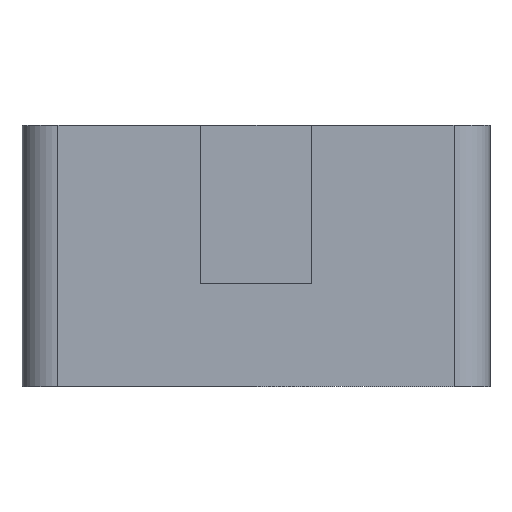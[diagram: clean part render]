
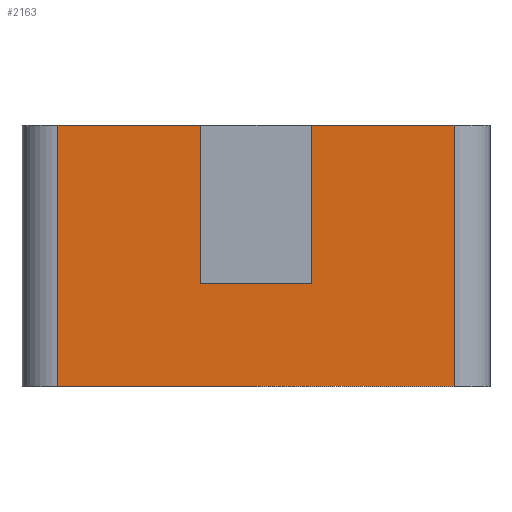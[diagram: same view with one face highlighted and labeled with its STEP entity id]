
A CAD part, left-side view. The second image highlights one B-rep face of the part: STEP entity #2163.
In plain terms, the highlighted planar face has unit normal (-1, 0, 0).
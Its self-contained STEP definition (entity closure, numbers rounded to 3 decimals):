
#44 = PLANE('',#45);
#45 = AXIS2_PLACEMENT_3D('',#46,#47,#48);
#46 = CARTESIAN_POINT('',(0.,0.,0.));
#47 = DIRECTION('',(0.,0.,1.));
#48 = DIRECTION('',(1.,0.,-0.));
#72 = CYLINDRICAL_SURFACE('',#73,4.);
#73 = AXIS2_PLACEMENT_3D('',#74,#75,#76);
#74 = CARTESIAN_POINT('',(-27.,-22.,0.));
#75 = DIRECTION('',(0.,0.,1.));
#76 = DIRECTION('',(0.,-1.,0.));
#100 = PLANE('',#101);
#101 = AXIS2_PLACEMENT_3D('',#102,#103,#104);
#102 = CARTESIAN_POINT('',(0.,0.,29.));
#103 = DIRECTION('',(0.,0.,1.));
#104 = DIRECTION('',(1.,0.,-0.));
#548 = VERTEX_POINT('',#549);
#549 = CARTESIAN_POINT('',(-31.,22.,0.));
#564 = CYLINDRICAL_SURFACE('',#565,4.);
#565 = AXIS2_PLACEMENT_3D('',#566,#567,#568);
#566 = CARTESIAN_POINT('',(-27.,22.,0.));
#567 = DIRECTION('',(0.,0.,1.));
#568 = DIRECTION('',(-0.,1.,0.));
#576 = EDGE_CURVE('',#548,#577,#579,.T.);
#577 = VERTEX_POINT('',#578);
#578 = CARTESIAN_POINT('',(-31.,-22.,0.));
#579 = SURFACE_CURVE('',#580,(#584,#591),.PCURVE_S1.);
#580 = LINE('',#581,#582);
#581 = CARTESIAN_POINT('',(-31.,26.,0.));
#582 = VECTOR('',#583,1.);
#583 = DIRECTION('',(0.,-1.,0.));
#584 = PCURVE('',#44,#585);
#585 = DEFINITIONAL_REPRESENTATION('',(#586),#590);
#586 = LINE('',#587,#588);
#587 = CARTESIAN_POINT('',(-31.,26.));
#588 = VECTOR('',#589,1.);
#589 = DIRECTION('',(0.,-1.));
#590 = ( GEOMETRIC_REPRESENTATION_CONTEXT(2) 
PARAMETRIC_REPRESENTATION_CONTEXT() REPRESENTATION_CONTEXT('2D SPACE',''
  ) );
#591 = PCURVE('',#592,#597);
#592 = PLANE('',#593);
#593 = AXIS2_PLACEMENT_3D('',#594,#595,#596);
#594 = CARTESIAN_POINT('',(-31.,26.,0.));
#595 = DIRECTION('',(1.,0.,-0.));
#596 = DIRECTION('',(0.,-1.,0.));
#597 = DEFINITIONAL_REPRESENTATION('',(#598),#602);
#598 = LINE('',#599,#600);
#599 = CARTESIAN_POINT('',(0.,0.));
#600 = VECTOR('',#601,1.);
#601 = DIRECTION('',(1.,0.));
#602 = ( GEOMETRIC_REPRESENTATION_CONTEXT(2) 
PARAMETRIC_REPRESENTATION_CONTEXT() REPRESENTATION_CONTEXT('2D SPACE',''
  ) );
#634 = EDGE_CURVE('',#577,#635,#637,.T.);
#635 = VERTEX_POINT('',#636);
#636 = CARTESIAN_POINT('',(-31.,-22.,29.));
#637 = SURFACE_CURVE('',#638,(#642,#649),.PCURVE_S1.);
#638 = LINE('',#639,#640);
#639 = CARTESIAN_POINT('',(-31.,-22.,0.));
#640 = VECTOR('',#641,1.);
#641 = DIRECTION('',(0.,0.,1.));
#642 = PCURVE('',#72,#643);
#643 = DEFINITIONAL_REPRESENTATION('',(#644),#648);
#644 = LINE('',#645,#646);
#645 = CARTESIAN_POINT('',(-1.571,0.));
#646 = VECTOR('',#647,1.);
#647 = DIRECTION('',(-0.,1.));
#648 = ( GEOMETRIC_REPRESENTATION_CONTEXT(2) 
PARAMETRIC_REPRESENTATION_CONTEXT() REPRESENTATION_CONTEXT('2D SPACE',''
  ) );
#649 = PCURVE('',#592,#650);
#650 = DEFINITIONAL_REPRESENTATION('',(#651),#655);
#651 = LINE('',#652,#653);
#652 = CARTESIAN_POINT('',(48.,0.));
#653 = VECTOR('',#654,1.);
#654 = DIRECTION('',(0.,-1.));
#655 = ( GEOMETRIC_REPRESENTATION_CONTEXT(2) 
PARAMETRIC_REPRESENTATION_CONTEXT() REPRESENTATION_CONTEXT('2D SPACE',''
  ) );
#811 = VERTEX_POINT('',#812);
#812 = CARTESIAN_POINT('',(-31.,22.,29.));
#834 = EDGE_CURVE('',#811,#835,#837,.T.);
#835 = VERTEX_POINT('',#836);
#836 = CARTESIAN_POINT('',(-31.,6.2,29.));
#837 = SURFACE_CURVE('',#838,(#842,#849),.PCURVE_S1.);
#838 = LINE('',#839,#840);
#839 = CARTESIAN_POINT('',(-31.,26.,29.));
#840 = VECTOR('',#841,1.);
#841 = DIRECTION('',(0.,-1.,0.));
#842 = PCURVE('',#100,#843);
#843 = DEFINITIONAL_REPRESENTATION('',(#844),#848);
#844 = LINE('',#845,#846);
#845 = CARTESIAN_POINT('',(-31.,26.));
#846 = VECTOR('',#847,1.);
#847 = DIRECTION('',(0.,-1.));
#848 = ( GEOMETRIC_REPRESENTATION_CONTEXT(2) 
PARAMETRIC_REPRESENTATION_CONTEXT() REPRESENTATION_CONTEXT('2D SPACE',''
  ) );
#849 = PCURVE('',#592,#850);
#850 = DEFINITIONAL_REPRESENTATION('',(#851),#855);
#851 = LINE('',#852,#853);
#852 = CARTESIAN_POINT('',(0.,-29.));
#853 = VECTOR('',#854,1.);
#854 = DIRECTION('',(1.,0.));
#855 = ( GEOMETRIC_REPRESENTATION_CONTEXT(2) 
PARAMETRIC_REPRESENTATION_CONTEXT() REPRESENTATION_CONTEXT('2D SPACE',''
  ) );
#873 = PLANE('',#874);
#874 = AXIS2_PLACEMENT_3D('',#875,#876,#877);
#875 = CARTESIAN_POINT('',(-34.,6.2,11.4));
#876 = DIRECTION('',(0.,1.,0.));
#877 = DIRECTION('',(0.,0.,1.));
#1239 = VERTEX_POINT('',#1240);
#1240 = CARTESIAN_POINT('',(-31.,-6.2,29.));
#1254 = PLANE('',#1255);
#1255 = AXIS2_PLACEMENT_3D('',#1256,#1257,#1258);
#1256 = CARTESIAN_POINT('',(-34.,-6.2,11.4));
#1257 = DIRECTION('',(0.,1.,0.));
#1258 = DIRECTION('',(0.,0.,1.));
#1265 = EDGE_CURVE('',#1239,#635,#1266,.T.);
#1266 = SURFACE_CURVE('',#1267,(#1271,#1278),.PCURVE_S1.);
#1267 = LINE('',#1268,#1269);
#1268 = CARTESIAN_POINT('',(-31.,26.,29.));
#1269 = VECTOR('',#1270,1.);
#1270 = DIRECTION('',(0.,-1.,0.));
#1271 = PCURVE('',#100,#1272);
#1272 = DEFINITIONAL_REPRESENTATION('',(#1273),#1277);
#1273 = LINE('',#1274,#1275);
#1274 = CARTESIAN_POINT('',(-31.,26.));
#1275 = VECTOR('',#1276,1.);
#1276 = DIRECTION('',(0.,-1.));
#1277 = ( GEOMETRIC_REPRESENTATION_CONTEXT(2) 
PARAMETRIC_REPRESENTATION_CONTEXT() REPRESENTATION_CONTEXT('2D SPACE',''
  ) );
#1278 = PCURVE('',#592,#1279);
#1279 = DEFINITIONAL_REPRESENTATION('',(#1280),#1284);
#1280 = LINE('',#1281,#1282);
#1281 = CARTESIAN_POINT('',(0.,-29.));
#1282 = VECTOR('',#1283,1.);
#1283 = DIRECTION('',(1.,0.));
#1284 = ( GEOMETRIC_REPRESENTATION_CONTEXT(2) 
PARAMETRIC_REPRESENTATION_CONTEXT() REPRESENTATION_CONTEXT('2D SPACE',''
  ) );
#2163 = ADVANCED_FACE('',(#2164),#592,.F.);
#2164 = FACE_BOUND('',#2165,.F.);
#2165 = EDGE_LOOP('',(#2166,#2167,#2188,#2189,#2210,#2236,#2255,#2256));
#2166 = ORIENTED_EDGE('',*,*,#576,.F.);
#2167 = ORIENTED_EDGE('',*,*,#2168,.T.);
#2168 = EDGE_CURVE('',#548,#811,#2169,.T.);
#2169 = SURFACE_CURVE('',#2170,(#2174,#2181),.PCURVE_S1.);
#2170 = LINE('',#2171,#2172);
#2171 = CARTESIAN_POINT('',(-31.,22.,0.));
#2172 = VECTOR('',#2173,1.);
#2173 = DIRECTION('',(0.,0.,1.));
#2174 = PCURVE('',#592,#2175);
#2175 = DEFINITIONAL_REPRESENTATION('',(#2176),#2180);
#2176 = LINE('',#2177,#2178);
#2177 = CARTESIAN_POINT('',(4.,0.));
#2178 = VECTOR('',#2179,1.);
#2179 = DIRECTION('',(0.,-1.));
#2180 = ( GEOMETRIC_REPRESENTATION_CONTEXT(2) 
PARAMETRIC_REPRESENTATION_CONTEXT() REPRESENTATION_CONTEXT('2D SPACE',''
  ) );
#2181 = PCURVE('',#564,#2182);
#2182 = DEFINITIONAL_REPRESENTATION('',(#2183),#2187);
#2183 = LINE('',#2184,#2185);
#2184 = CARTESIAN_POINT('',(1.571,0.));
#2185 = VECTOR('',#2186,1.);
#2186 = DIRECTION('',(0.,1.));
#2187 = ( GEOMETRIC_REPRESENTATION_CONTEXT(2) 
PARAMETRIC_REPRESENTATION_CONTEXT() REPRESENTATION_CONTEXT('2D SPACE',''
  ) );
#2188 = ORIENTED_EDGE('',*,*,#834,.T.);
#2189 = ORIENTED_EDGE('',*,*,#2190,.F.);
#2190 = EDGE_CURVE('',#2191,#835,#2193,.T.);
#2191 = VERTEX_POINT('',#2192);
#2192 = CARTESIAN_POINT('',(-31.,6.2,11.4));
#2193 = SURFACE_CURVE('',#2194,(#2198,#2204),.PCURVE_S1.);
#2194 = LINE('',#2195,#2196);
#2195 = CARTESIAN_POINT('',(-31.,6.2,5.7));
#2196 = VECTOR('',#2197,1.);
#2197 = DIRECTION('',(0.,-0.,1.));
#2198 = PCURVE('',#592,#2199);
#2199 = DEFINITIONAL_REPRESENTATION('',(#2200),#2203);
#2200 = B_SPLINE_CURVE_WITH_KNOTS('',1,(#2201,#2202),.UNSPECIFIED.,.F.,
  .F.,(2,2),(5.7,23.3),.PIECEWISE_BEZIER_KNOTS.);
#2201 = CARTESIAN_POINT('',(19.8,-11.4));
#2202 = CARTESIAN_POINT('',(19.8,-29.));
#2203 = ( GEOMETRIC_REPRESENTATION_CONTEXT(2) 
PARAMETRIC_REPRESENTATION_CONTEXT() REPRESENTATION_CONTEXT('2D SPACE',''
  ) );
#2204 = PCURVE('',#873,#2205);
#2205 = DEFINITIONAL_REPRESENTATION('',(#2206),#2209);
#2206 = B_SPLINE_CURVE_WITH_KNOTS('',1,(#2207,#2208),.UNSPECIFIED.,.F.,
  .F.,(2,2),(5.7,23.3),.PIECEWISE_BEZIER_KNOTS.);
#2207 = CARTESIAN_POINT('',(0.,3.));
#2208 = CARTESIAN_POINT('',(17.6,3.));
#2209 = ( GEOMETRIC_REPRESENTATION_CONTEXT(2) 
PARAMETRIC_REPRESENTATION_CONTEXT() REPRESENTATION_CONTEXT('2D SPACE',''
  ) );
#2210 = ORIENTED_EDGE('',*,*,#2211,.T.);
#2211 = EDGE_CURVE('',#2191,#2212,#2214,.T.);
#2212 = VERTEX_POINT('',#2213);
#2213 = CARTESIAN_POINT('',(-31.,-6.2,11.4));
#2214 = SURFACE_CURVE('',#2215,(#2219,#2225),.PCURVE_S1.);
#2215 = LINE('',#2216,#2217);
#2216 = CARTESIAN_POINT('',(-31.,9.9,11.4));
#2217 = VECTOR('',#2218,1.);
#2218 = DIRECTION('',(0.,-1.,0.));
#2219 = PCURVE('',#592,#2220);
#2220 = DEFINITIONAL_REPRESENTATION('',(#2221),#2224);
#2221 = B_SPLINE_CURVE_WITH_KNOTS('',1,(#2222,#2223),.UNSPECIFIED.,.F.,
  .F.,(2,2),(3.7,16.1),.PIECEWISE_BEZIER_KNOTS.);
#2222 = CARTESIAN_POINT('',(19.8,-11.4));
#2223 = CARTESIAN_POINT('',(32.2,-11.4));
#2224 = ( GEOMETRIC_REPRESENTATION_CONTEXT(2) 
PARAMETRIC_REPRESENTATION_CONTEXT() REPRESENTATION_CONTEXT('2D SPACE',''
  ) );
#2225 = PCURVE('',#2226,#2231);
#2226 = PLANE('',#2227);
#2227 = AXIS2_PLACEMENT_3D('',#2228,#2229,#2230);
#2228 = CARTESIAN_POINT('',(-34.,-6.2,11.4));
#2229 = DIRECTION('',(0.,0.,1.));
#2230 = DIRECTION('',(1.,0.,0.));
#2231 = DEFINITIONAL_REPRESENTATION('',(#2232),#2235);
#2232 = B_SPLINE_CURVE_WITH_KNOTS('',1,(#2233,#2234),.UNSPECIFIED.,.F.,
  .F.,(2,2),(3.7,16.1),.PIECEWISE_BEZIER_KNOTS.);
#2233 = CARTESIAN_POINT('',(3.,12.4));
#2234 = CARTESIAN_POINT('',(3.,0.));
#2235 = ( GEOMETRIC_REPRESENTATION_CONTEXT(2) 
PARAMETRIC_REPRESENTATION_CONTEXT() REPRESENTATION_CONTEXT('2D SPACE',''
  ) );
#2236 = ORIENTED_EDGE('',*,*,#2237,.T.);
#2237 = EDGE_CURVE('',#2212,#1239,#2238,.T.);
#2238 = SURFACE_CURVE('',#2239,(#2243,#2249),.PCURVE_S1.);
#2239 = LINE('',#2240,#2241);
#2240 = CARTESIAN_POINT('',(-31.,-6.2,5.7));
#2241 = VECTOR('',#2242,1.);
#2242 = DIRECTION('',(0.,-0.,1.));
#2243 = PCURVE('',#592,#2244);
#2244 = DEFINITIONAL_REPRESENTATION('',(#2245),#2248);
#2245 = B_SPLINE_CURVE_WITH_KNOTS('',1,(#2246,#2247),.UNSPECIFIED.,.F.,
  .F.,(2,2),(5.7,23.3),.PIECEWISE_BEZIER_KNOTS.);
#2246 = CARTESIAN_POINT('',(32.2,-11.4));
#2247 = CARTESIAN_POINT('',(32.2,-29.));
#2248 = ( GEOMETRIC_REPRESENTATION_CONTEXT(2) 
PARAMETRIC_REPRESENTATION_CONTEXT() REPRESENTATION_CONTEXT('2D SPACE',''
  ) );
#2249 = PCURVE('',#1254,#2250);
#2250 = DEFINITIONAL_REPRESENTATION('',(#2251),#2254);
#2251 = B_SPLINE_CURVE_WITH_KNOTS('',1,(#2252,#2253),.UNSPECIFIED.,.F.,
  .F.,(2,2),(5.7,23.3),.PIECEWISE_BEZIER_KNOTS.);
#2252 = CARTESIAN_POINT('',(0.,3.));
#2253 = CARTESIAN_POINT('',(17.6,3.));
#2254 = ( GEOMETRIC_REPRESENTATION_CONTEXT(2) 
PARAMETRIC_REPRESENTATION_CONTEXT() REPRESENTATION_CONTEXT('2D SPACE',''
  ) );
#2255 = ORIENTED_EDGE('',*,*,#1265,.T.);
#2256 = ORIENTED_EDGE('',*,*,#634,.F.);
